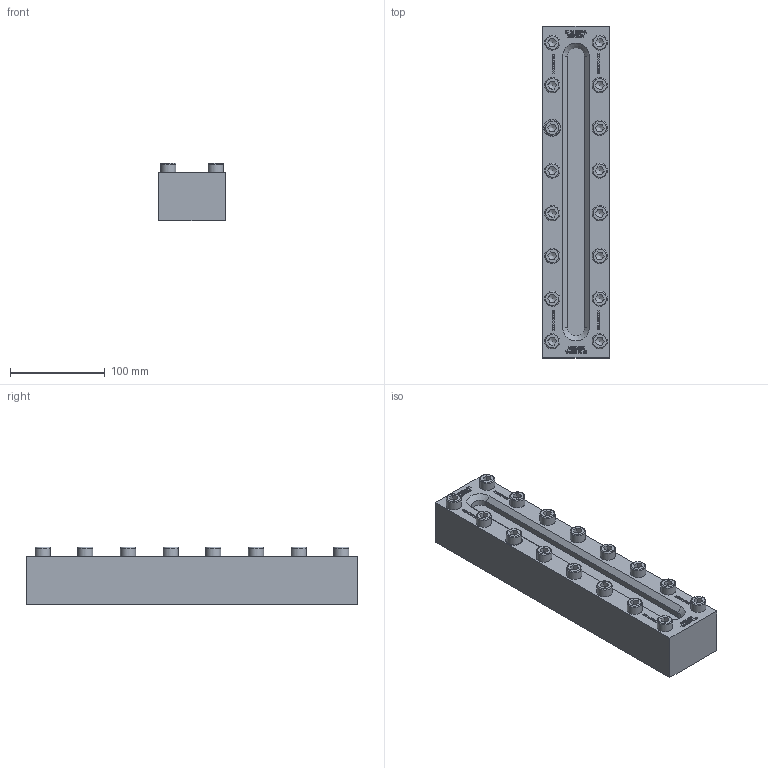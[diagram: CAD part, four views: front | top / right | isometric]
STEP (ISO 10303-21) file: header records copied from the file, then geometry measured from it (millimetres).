
FILE_DESCRIPTION(/* description */ (''),/* implementation_level */ '2;1');
FILE_NAME(/* name */ 'W:\Konstruktion_ACI\330\_Zeichnungen\STEP\ACI-330-350-16.stp',/* time_stamp */ '2022-03-01T17:13:41+01:00',/* author */ ('koslowksi'),/* organization */ (''),/* preprocessor_version */ 'ST-DEVELOPER v16.1',/* originating_system */ 'Autodesk Inventor 2016',/* authorisation */ '');
FILE_SCHEMA (('AUTOMOTIVE_DESIGN { 1 0 10303 214 3 1 1 }'));
Length unit declared in the file: centimetre
Products named in the file (1): ACI-330-350-16.stp
Bounding box: 70 x 350 x 60.9 mm (x, y, z)
Volume: 1127349.6 mm3; surface area: 116536.7 mm2
Topology: 1 solids, 1 shells, 1288 faces, 3480 edges, 2313 vertices
Faces by surface type: plane 915, bspline 318, cylinder 21, cone 18, torus 16
Full cylindrical faces by diameter (mm): 16 x16, 18 x1
Entity records: 42208 total; most frequent: CARTESIAN_POINT 11297, ORIENTED_EDGE 6800, DIRECTION 4670, EDGE_CURVE 3400, LINE 2608, VECTOR 2608, VERTEX_POINT 2282, EDGE_LOOP 1456
